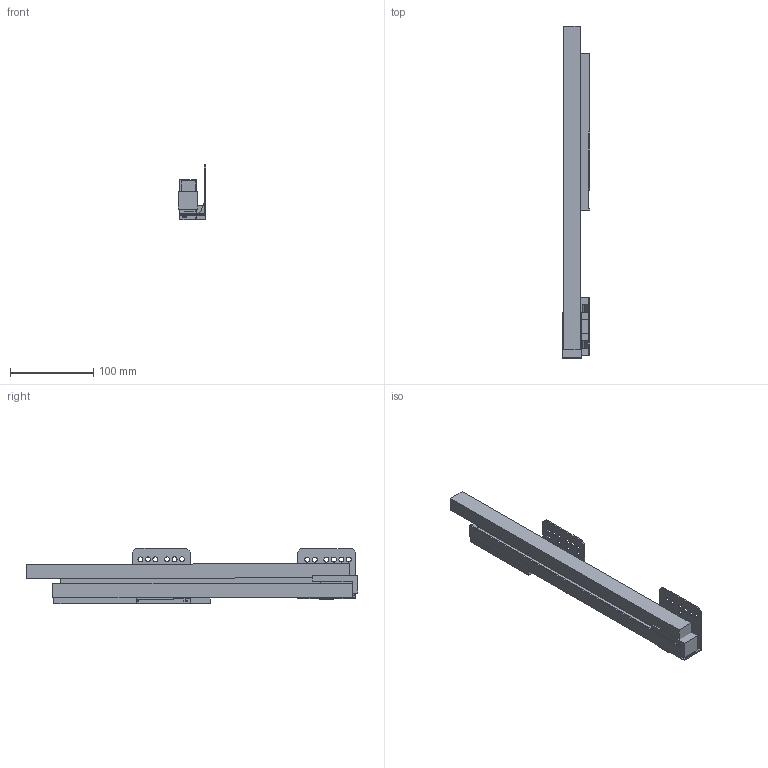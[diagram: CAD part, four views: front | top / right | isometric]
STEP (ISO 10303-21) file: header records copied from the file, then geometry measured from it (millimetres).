
FILE_DESCRIPTION (( 'STEP AP214' ), '1' );
FILE_NAME ('_IMOS Dynamic-XP VA 40kg NL400 RE.step', '2010-07-07T08:06:39', ( 'grass' ), ( '' ), 'SwSTEP 2.0', 'SolidWorks 2010', '' );
FILE_SCHEMA (( 'AUTOMOTIVE_DESIGN' ));
Length unit declared in the file: millimetre
Products named in the file (1): _IMOS Dynamic-XP VA 40kg NL400 RE
Bounding box: 32.79 x 399.89 x 66.67 mm (x, y, z)
Volume: 380265.8 mm3; surface area: 135834.3 mm2
Topology: 7 solids, 7 shells, 151 faces, 411 edges, 274 vertices
Faces by surface type: plane 111, cylinder 40
Entity records: 4913 total; most frequent: CARTESIAN_POINT 837, ORIENTED_EDGE 822, DIRECTION 795, EDGE_CURVE 411, VECTOR 331, LINE 331, VERTEX_POINT 274, AXIS2_PLACEMENT_3D 232
